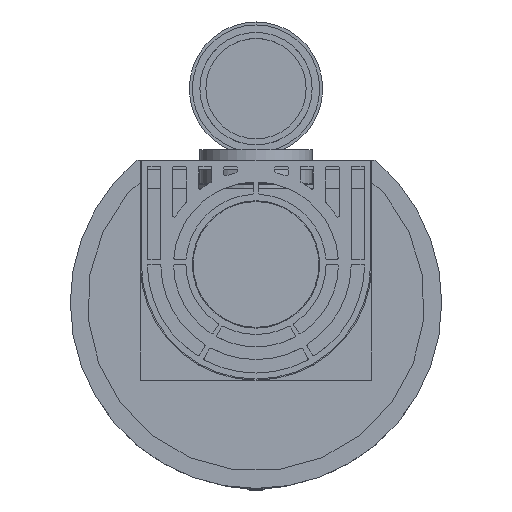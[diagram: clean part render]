
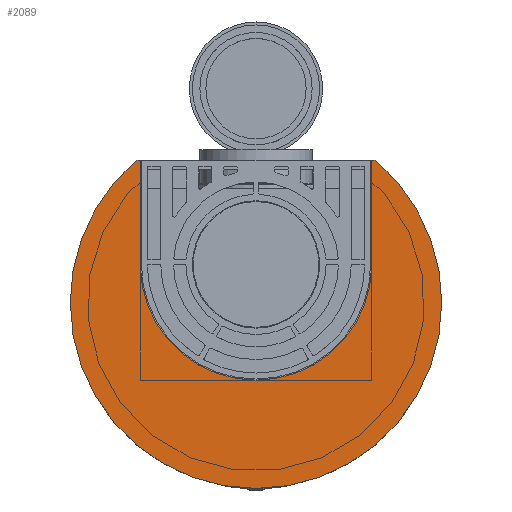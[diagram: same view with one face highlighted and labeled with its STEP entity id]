
A CAD part, top view. The second image highlights one B-rep face of the part: STEP entity #2089.
In plain terms, the highlighted planar face has unit normal (0, 0, 1).
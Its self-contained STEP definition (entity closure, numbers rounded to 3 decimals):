
#2089 = ADVANCED_FACE( '', ( #5568 ), #5569, .F. );
#5568 = FACE_OUTER_BOUND( '', #12060, .T. );
#5569 = PLANE( '', #12061 );
#12060 = EDGE_LOOP( '', ( #43337, #43338, #43339, #43340, #43341, #43342, #43343, #43344, #43345, #43346, #43347, #43348, #43349, #43350 ) );
#12061 = AXIS2_PLACEMENT_3D( '', #43351, #43352, #43353 );
#43337 = ORIENTED_EDGE( '', *, *, #58453, .F. );
#43338 = ORIENTED_EDGE( '', *, *, #58454, .F. );
#43339 = ORIENTED_EDGE( '', *, *, #58455, .F. );
#43340 = ORIENTED_EDGE( '', *, *, #58456, .F. );
#43341 = ORIENTED_EDGE( '', *, *, #58457, .F. );
#43342 = ORIENTED_EDGE( '', *, *, #58458, .F. );
#43343 = ORIENTED_EDGE( '', *, *, #58459, .T. );
#43344 = ORIENTED_EDGE( '', *, *, #58460, .T. );
#43345 = ORIENTED_EDGE( '', *, *, #58461, .T. );
#43346 = ORIENTED_EDGE( '', *, *, #58462, .T. );
#43347 = ORIENTED_EDGE( '', *, *, #58463, .T. );
#43348 = ORIENTED_EDGE( '', *, *, #57564, .T. );
#43349 = ORIENTED_EDGE( '', *, *, #58464, .F. );
#43350 = ORIENTED_EDGE( '', *, *, #58213, .F. );
#43351 = CARTESIAN_POINT( '', ( -159.022, -99.35, 1544.155 ) );
#43352 = DIRECTION( '', ( 0., 0., -1. ) );
#43353 = DIRECTION( '', ( -1., 0., 0. ) );
#57564 = EDGE_CURVE( '', #63431, #63429, #63432, .T. );
#58213 = EDGE_CURVE( '', #64586, #64570, #64588, .T. );
#58453 = EDGE_CURVE( '', #65004, #64586, #65005, .T. );
#58454 = EDGE_CURVE( '', #65006, #65004, #65007, .T. );
#58455 = EDGE_CURVE( '', #65008, #65006, #65009, .T. );
#58456 = EDGE_CURVE( '', #65010, #65008, #65011, .T. );
#58457 = EDGE_CURVE( '', #65012, #65010, #65013, .T. );
#58458 = EDGE_CURVE( '', #65014, #65012, #65015, .T. );
#58459 = EDGE_CURVE( '', #65014, #65016, #65017, .T. );
#58460 = EDGE_CURVE( '', #65016, #65018, #65019, .T. );
#58461 = EDGE_CURVE( '', #65018, #65020, #65021, .T. );
#58462 = EDGE_CURVE( '', #65020, #65022, #65023, .T. );
#58463 = EDGE_CURVE( '', #65022, #63431, #65024, .T. );
#58464 = EDGE_CURVE( '', #64570, #63429, #65025, .T. );
#63429 = VERTEX_POINT( '', #72263 );
#63431 = VERTEX_POINT( '', #72266 );
#63432 = LINE( '', #72267, #72268 );
#64570 = VERTEX_POINT( '', #75820 );
#64586 = VERTEX_POINT( '', #75844 );
#64588 = LINE( '', #75847, #75848 );
#65004 = VERTEX_POINT( '', #76860 );
#65005 = LINE( '', #76861, #76862 );
#65006 = VERTEX_POINT( '', #76863 );
#65007 = LINE( '', #76864, #76865 );
#65008 = VERTEX_POINT( '', #76866 );
#65009 = CIRCLE( '', #76867, 1. );
#65010 = VERTEX_POINT( '', #76868 );
#65011 = LINE( '', #76869, #76870 );
#65012 = VERTEX_POINT( '', #76871 );
#65013 = CIRCLE( '', #76872, 1. );
#65014 = VERTEX_POINT( '', #76873 );
#65015 = CIRCLE( '', #76874, 248. );
#65016 = VERTEX_POINT( '', #76875 );
#65017 = CIRCLE( '', #76876, 1. );
#65018 = VERTEX_POINT( '', #76877 );
#65019 = LINE( '', #76878, #76879 );
#65020 = VERTEX_POINT( '', #76880 );
#65021 = CIRCLE( '', #76881, 1. );
#65022 = VERTEX_POINT( '', #76882 );
#65023 = LINE( '', #76883, #76884 );
#65024 = LINE( '', #76885, #76886 );
#65025 = CIRCLE( '', #76887, 154.5 );
#72263 = CARTESIAN_POINT( '', ( 154.476, -240.05, 1544.155 ) );
#72266 = CARTESIAN_POINT( '', ( 154.495, -127.539, 1544.155 ) );
#72267 = CARTESIAN_POINT( '', ( 154.495, -127.539, 1544.155 ) );
#72268 = VECTOR( '', #94507, 1000. );
#75820 = CARTESIAN_POINT( '', ( -154.476, -240.05, 1544.155 ) );
#75844 = CARTESIAN_POINT( '', ( -154.495, -127.539, 1544.155 ) );
#75847 = CARTESIAN_POINT( '', ( -154.495, -127.539, 1544.155 ) );
#75848 = VECTOR( '', #95077, 1000. );
#76860 = CARTESIAN_POINT( '', ( -154.5, -127.543, 1544.155 ) );
#76861 = CARTESIAN_POINT( '', ( -171.726, -142.957, 1544.155 ) );
#76862 = VECTOR( '', #95307, 1000. );
#76863 = CARTESIAN_POINT( '', ( -154.5, -99.35, 1544.155 ) );
#76864 = CARTESIAN_POINT( '', ( -154.5, -99.35, 1544.155 ) );
#76865 = VECTOR( '', #95308, 1000. );
#76866 = CARTESIAN_POINT( '', ( -155.5, -98.35, 1544.155 ) );
#76867 = AXIS2_PLACEMENT_3D( '', #95309, #95310, #95311 );
#76868 = CARTESIAN_POINT( '', ( -159.022, -98.35, 1544.155 ) );
#76869 = CARTESIAN_POINT( '', ( -159.022, -98.35, 1544.155 ) );
#76870 = VECTOR( '', #95312, 1000. );
#76871 = CARTESIAN_POINT( '', ( -159.666, -98.585, 1544.155 ) );
#76872 = AXIS2_PLACEMENT_3D( '', #95313, #95314, #95315 );
#76873 = CARTESIAN_POINT( '', ( 159.666, -98.585, 1544.155 ) );
#76874 = AXIS2_PLACEMENT_3D( '', #95316, #95317, #95318 );
#76875 = CARTESIAN_POINT( '', ( 159.022, -98.35, 1544.155 ) );
#76876 = AXIS2_PLACEMENT_3D( '', #95319, #95320, #95321 );
#76877 = CARTESIAN_POINT( '', ( 155.5, -98.35, 1544.155 ) );
#76878 = CARTESIAN_POINT( '', ( 159.022, -98.35, 1544.155 ) );
#76879 = VECTOR( '', #95322, 1000. );
#76880 = CARTESIAN_POINT( '', ( 154.5, -99.35, 1544.155 ) );
#76881 = AXIS2_PLACEMENT_3D( '', #95323, #95324, #95325 );
#76882 = CARTESIAN_POINT( '', ( 154.5, -127.543, 1544.155 ) );
#76883 = CARTESIAN_POINT( '', ( 154.5, -99.35, 1544.155 ) );
#76884 = VECTOR( '', #95326, 1000. );
#76885 = CARTESIAN_POINT( '', ( 171.726, -142.957, 1544.155 ) );
#76886 = VECTOR( '', #95327, 1000. );
#76887 = AXIS2_PLACEMENT_3D( '', #95328, #95329, #95330 );
#94507 = DIRECTION( '', ( 0., -1., 0. ) );
#95077 = DIRECTION( '', ( 0., -1., 0. ) );
#95307 = DIRECTION( '', ( 0.745, 0.667, 0. ) );
#95308 = DIRECTION( '', ( 0., -1., 0. ) );
#95309 = CARTESIAN_POINT( '', ( -155.5, -99.35, 1544.155 ) );
#95310 = DIRECTION( '', ( 0., 0., -1. ) );
#95311 = DIRECTION( '', ( -1., 0., 0. ) );
#95312 = DIRECTION( '', ( 1., 0., 0. ) );
#95313 = CARTESIAN_POINT( '', ( -159.022, -99.35, 1544.155 ) );
#95314 = DIRECTION( '', ( 0., 0., -1. ) );
#95315 = DIRECTION( '', ( 1., 0., 0. ) );
#95316 = CARTESIAN_POINT( '', ( 0., -288.35, 1544.155 ) );
#95317 = DIRECTION( '', ( 0., 0., -1. ) );
#95318 = DIRECTION( '', ( 1., 0., 0. ) );
#95319 = CARTESIAN_POINT( '', ( 159.022, -99.35, 1544.155 ) );
#95320 = DIRECTION( '', ( 0., 0., 1. ) );
#95321 = DIRECTION( '', ( -1., 0., 0. ) );
#95322 = DIRECTION( '', ( -1., 0., 0. ) );
#95323 = CARTESIAN_POINT( '', ( 155.5, -99.35, 1544.155 ) );
#95324 = DIRECTION( '', ( 0., 0., 1. ) );
#95325 = DIRECTION( '', ( 1., 0., 0. ) );
#95326 = DIRECTION( '', ( 0., -1., 0. ) );
#95327 = DIRECTION( '', ( -0.745, 0.667, 0. ) );
#95328 = CARTESIAN_POINT( '', ( 0., -237.35, 1544.155 ) );
#95329 = DIRECTION( '', ( 0., 0., 1. ) );
#95330 = DIRECTION( '', ( 1., 0., 0. ) );
